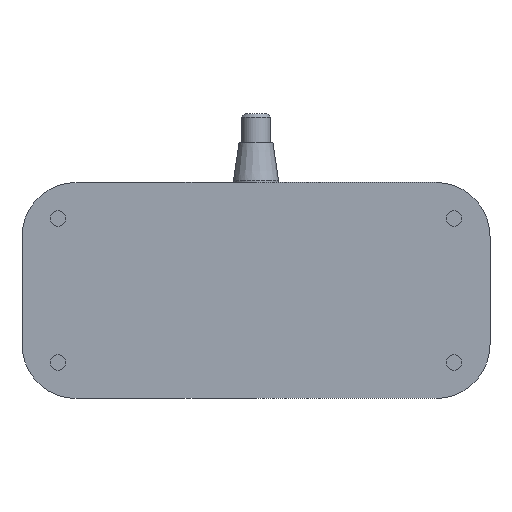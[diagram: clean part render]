
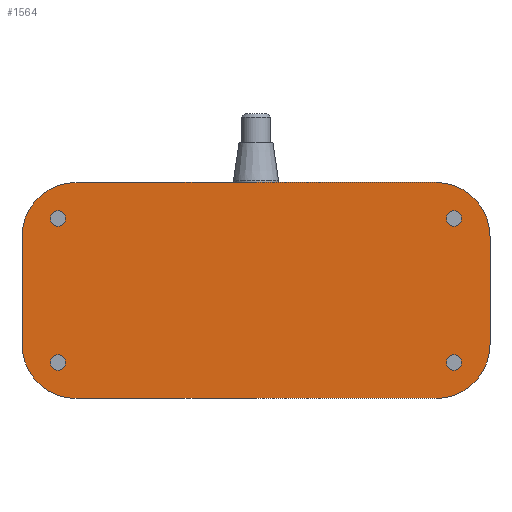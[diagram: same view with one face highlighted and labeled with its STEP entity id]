
A CAD part, front view. The second image highlights one B-rep face of the part: STEP entity #1564.
In plain terms, the highlighted planar face has unit normal (0, -1, 0).
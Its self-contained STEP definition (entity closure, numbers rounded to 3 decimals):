
#9 = EDGE_CURVE ( 'NONE', #1752, #61, #1513, .T. ) ;
#10 = DIRECTION ( 'NONE',  ( -1., 0., 0. ) ) ;
#12 = DIRECTION ( 'NONE',  ( 0., -1., 0. ) ) ;
#15 = CARTESIAN_POINT ( 'NONE',  ( -100., 0., 30. ) ) ;
#40 = DIRECTION ( 'NONE',  ( -1., 0., 0. ) ) ;
#42 = DIRECTION ( 'NONE',  ( 0., -1., 0. ) ) ;
#44 = CARTESIAN_POINT ( 'NONE',  ( 100., 0., 30. ) ) ;
#50 = CIRCLE ( 'NONE', #729, 4.25 ) ;
#61 = VERTEX_POINT ( 'NONE', #1811 ) ;
#88 = DIRECTION ( 'NONE',  ( 0., 0., -1. ) ) ;
#94 = CARTESIAN_POINT ( 'NONE',  ( -130., 0., 60. ) ) ;
#129 = EDGE_CURVE ( 'NONE', #2046, #1224, #810, .T. ) ;
#135 = ORIENTED_EDGE ( 'NONE', *, *, #811, .F. ) ;
#154 = AXIS2_PLACEMENT_3D ( 'NONE', #916, #816, #815 ) ;
#163 = VECTOR ( 'NONE', #1084, 1000. ) ;
#179 = ORIENTED_EDGE ( 'NONE', *, *, #673, .T. ) ;
#231 = EDGE_CURVE ( 'NONE', #326, #1998, #1490, .T. ) ;
#250 = EDGE_CURVE ( 'NONE', #1917, #1935, #772, .T. ) ;
#266 = EDGE_CURVE ( 'NONE', #692, #1594, #711, .T. ) ;
#298 = PLANE ( 'NONE',  #1883 ) ;
#302 = EDGE_CURVE ( 'NONE', #1224, #2046, #2042, .T. ) ;
#306 = EDGE_CURVE ( 'NONE', #1996, #723, #1994, .T. ) ;
#321 = DIRECTION ( 'NONE',  ( 0., -1., 0. ) ) ;
#326 = VERTEX_POINT ( 'NONE', #921 ) ;
#347 = CARTESIAN_POINT ( 'NONE',  ( -110., 0., 40. ) ) ;
#365 = DIRECTION ( 'NONE',  ( 0., -1., 0. ) ) ;
#370 = EDGE_CURVE ( 'NONE', #61, #854, #1913, .T. ) ;
#377 = CIRCLE ( 'NONE', #510, 4.25 ) ;
#449 = AXIS2_PLACEMENT_3D ( 'NONE', #1525, #365, #1666 ) ;
#479 = VECTOR ( 'NONE', #1404, 1000. ) ;
#480 = ORIENTED_EDGE ( 'NONE', *, *, #231, .F. ) ;
#496 = AXIS2_PLACEMENT_3D ( 'NONE', #44, #42, #40 ) ;
#510 = AXIS2_PLACEMENT_3D ( 'NONE', #347, #1659, #550 ) ;
#550 = DIRECTION ( 'NONE',  ( 1., 0., 0. ) ) ;
#565 = CIRCLE ( 'NONE', #449, 4.25 ) ;
#622 = AXIS2_PLACEMENT_3D ( 'NONE', #15, #12, #10 ) ;
#624 = FACE_BOUND ( 'NONE', #2306, .T. ) ;
#631 = EDGE_CURVE ( 'NONE', #746, #1752, #1644, .T. ) ;
#636 = EDGE_LOOP ( 'NONE', ( #726, #135 ) ) ;
#650 = EDGE_CURVE ( 'NONE', #692, #1998, #769, .T. ) ;
#655 = EDGE_CURVE ( 'NONE', #326, #746, #1208, .T. ) ;
#667 = ORIENTED_EDGE ( 'NONE', *, *, #9, .T. ) ;
#671 = EDGE_CURVE ( 'NONE', #753, #775, #1144, .T. ) ;
#673 = EDGE_CURVE ( 'NONE', #854, #1594, #1992, .T. ) ;
#681 = CARTESIAN_POINT ( 'NONE',  ( 130., 0., -30. ) ) ;
#692 = VERTEX_POINT ( 'NONE', #2289 ) ;
#711 = LINE ( 'NONE', #888, #163 ) ;
#717 = ORIENTED_EDGE ( 'NONE', *, *, #250, .F. ) ;
#719 = EDGE_LOOP ( 'NONE', ( #1477, #1050 ) ) ;
#720 = DIRECTION ( 'NONE',  ( 0., -1., 0. ) ) ;
#723 = VERTEX_POINT ( 'NONE', #896 ) ;
#725 = CARTESIAN_POINT ( 'NONE',  ( -110., 0., -40. ) ) ;
#726 = ORIENTED_EDGE ( 'NONE', *, *, #306, .F. ) ;
#729 = AXIS2_PLACEMENT_3D ( 'NONE', #1982, #982, #2123 ) ;
#742 = AXIS2_PLACEMENT_3D ( 'NONE', #2014, #2018, #1415 ) ;
#746 = VERTEX_POINT ( 'NONE', #1124 ) ;
#748 = CARTESIAN_POINT ( 'NONE',  ( -114.25, 0., -40. ) ) ;
#753 = VERTEX_POINT ( 'NONE', #2214 ) ;
#769 = CIRCLE ( 'NONE', #496, 30. ) ;
#772 = CIRCLE ( 'NONE', #2122, 4.25 ) ;
#775 = VERTEX_POINT ( 'NONE', #1140 ) ;
#790 = EDGE_LOOP ( 'NONE', ( #1011, #1494 ) ) ;
#810 = CIRCLE ( 'NONE', #2067, 4.25 ) ;
#811 = EDGE_CURVE ( 'NONE', #723, #1996, #565, .T. ) ;
#815 = DIRECTION ( 'NONE',  ( 1., 0., 0. ) ) ;
#816 = DIRECTION ( 'NONE',  ( 0., -1., 0. ) ) ;
#828 = DIRECTION ( 'NONE',  ( 1., 0., 0. ) ) ;
#854 = VERTEX_POINT ( 'NONE', #1536 ) ;
#888 = CARTESIAN_POINT ( 'NONE',  ( 130., 0., 60. ) ) ;
#891 = AXIS2_PLACEMENT_3D ( 'NONE', #2263, #321, #1503 ) ;
#896 = CARTESIAN_POINT ( 'NONE',  ( 105.75, 0., -40. ) ) ;
#904 = DIRECTION ( 'NONE',  ( 0., -1., 0. ) ) ;
#916 = CARTESIAN_POINT ( 'NONE',  ( 110., 0., -40. ) ) ;
#921 = CARTESIAN_POINT ( 'NONE',  ( -100., 0., 60. ) ) ;
#961 = CARTESIAN_POINT ( 'NONE',  ( 100., 0., 60. ) ) ;
#981 = DIRECTION ( 'NONE',  ( 1., 0., 0. ) ) ;
#982 = DIRECTION ( 'NONE',  ( 0., -1., 0. ) ) ;
#988 = CARTESIAN_POINT ( 'NONE',  ( 110., 0., 40. ) ) ;
#989 = CARTESIAN_POINT ( 'NONE',  ( -130., 0., 60. ) ) ;
#1011 = ORIENTED_EDGE ( 'NONE', *, *, #671, .F. ) ;
#1050 = ORIENTED_EDGE ( 'NONE', *, *, #129, .F. ) ;
#1061 = DIRECTION ( 'NONE',  ( 1., 0., 0. ) ) ;
#1084 = DIRECTION ( 'NONE',  ( 0., 0., -1. ) ) ;
#1124 = CARTESIAN_POINT ( 'NONE',  ( -130., 0., 30. ) ) ;
#1140 = CARTESIAN_POINT ( 'NONE',  ( -114.25, 0., 40. ) ) ;
#1144 = CIRCLE ( 'NONE', #742, 4.25 ) ;
#1186 = EDGE_CURVE ( 'NONE', #1935, #1917, #50, .T. ) ;
#1208 = CIRCLE ( 'NONE', #622, 30. ) ;
#1224 = VERTEX_POINT ( 'NONE', #2133 ) ;
#1250 = ORIENTED_EDGE ( 'NONE', *, *, #370, .T. ) ;
#1318 = VECTOR ( 'NONE', #828, 1000. ) ;
#1326 = EDGE_LOOP ( 'NONE', ( #1250, #179, #1572, #1437, #480, #1569, #2128, #667 ) ) ;
#1404 = DIRECTION ( 'NONE',  ( 1., 0., 0. ) ) ;
#1408 = CARTESIAN_POINT ( 'NONE',  ( -130., 0., -60. ) ) ;
#1415 = DIRECTION ( 'NONE',  ( 1., 0., 0. ) ) ;
#1437 = ORIENTED_EDGE ( 'NONE', *, *, #650, .T. ) ;
#1453 = ORIENTED_EDGE ( 'NONE', *, *, #1186, .F. ) ;
#1477 = ORIENTED_EDGE ( 'NONE', *, *, #302, .F. ) ;
#1490 = LINE ( 'NONE', #989, #1318 ) ;
#1494 = ORIENTED_EDGE ( 'NONE', *, *, #1753, .F. ) ;
#1503 = DIRECTION ( 'NONE',  ( -1., 0., 0. ) ) ;
#1512 = CARTESIAN_POINT ( 'NONE',  ( -100., 0., -30. ) ) ;
#1513 = CIRCLE ( 'NONE', #1583, 30. ) ;
#1514 = DIRECTION ( 'NONE',  ( 0., -1., 0. ) ) ;
#1515 = DIRECTION ( 'NONE',  ( -1., 0., 0. ) ) ;
#1521 = CARTESIAN_POINT ( 'NONE',  ( 110., 0., 40. ) ) ;
#1525 = CARTESIAN_POINT ( 'NONE',  ( 110., 0., -40. ) ) ;
#1536 = CARTESIAN_POINT ( 'NONE',  ( 100., 0., -60. ) ) ;
#1550 = CARTESIAN_POINT ( 'NONE',  ( 105.75, 0., 40. ) ) ;
#1564 = ADVANCED_FACE ( 'NONE', ( #624, #1582, #1618, #1963, #2015 ), #298, .F. ) ;
#1569 = ORIENTED_EDGE ( 'NONE', *, *, #655, .T. ) ;
#1572 = ORIENTED_EDGE ( 'NONE', *, *, #266, .F. ) ;
#1576 = DIRECTION ( 'NONE',  ( 1., 0., 0. ) ) ;
#1582 = FACE_BOUND ( 'NONE', #636, .T. ) ;
#1583 = AXIS2_PLACEMENT_3D ( 'NONE', #1512, #1514, #1515 ) ;
#1588 = DIRECTION ( 'NONE',  ( 0., -1., 0. ) ) ;
#1594 = VERTEX_POINT ( 'NONE', #681 ) ;
#1618 = FACE_BOUND ( 'NONE', #719, .T. ) ;
#1626 = CARTESIAN_POINT ( 'NONE',  ( -130., 0., 60. ) ) ;
#1644 = LINE ( 'NONE', #94, #1695 ) ;
#1659 = DIRECTION ( 'NONE',  ( 0., -1., 0. ) ) ;
#1666 = DIRECTION ( 'NONE',  ( 1., 0., 0. ) ) ;
#1695 = VECTOR ( 'NONE', #88, 1000. ) ;
#1752 = VERTEX_POINT ( 'NONE', #2092 ) ;
#1753 = EDGE_CURVE ( 'NONE', #775, #753, #377, .T. ) ;
#1784 = DIRECTION ( 'NONE',  ( -1., 0., 0. ) ) ;
#1811 = CARTESIAN_POINT ( 'NONE',  ( -100., 0., -60. ) ) ;
#1831 = CARTESIAN_POINT ( 'NONE',  ( -105.75, 0., -40. ) ) ;
#1883 = AXIS2_PLACEMENT_3D ( 'NONE', #1626, #2196, #1784 ) ;
#1913 = LINE ( 'NONE', #1408, #479 ) ;
#1917 = VERTEX_POINT ( 'NONE', #1831 ) ;
#1935 = VERTEX_POINT ( 'NONE', #748 ) ;
#1963 = FACE_BOUND ( 'NONE', #790, .T. ) ;
#1966 = CARTESIAN_POINT ( 'NONE',  ( 114.25, 0., -40. ) ) ;
#1982 = CARTESIAN_POINT ( 'NONE',  ( -110., 0., -40. ) ) ;
#1992 = CIRCLE ( 'NONE', #891, 30. ) ;
#1994 = CIRCLE ( 'NONE', #154, 4.25 ) ;
#1996 = VERTEX_POINT ( 'NONE', #1966 ) ;
#1998 = VERTEX_POINT ( 'NONE', #961 ) ;
#2014 = CARTESIAN_POINT ( 'NONE',  ( -110., 0., 40. ) ) ;
#2015 = FACE_OUTER_BOUND ( 'NONE', #1326, .T. ) ;
#2018 = DIRECTION ( 'NONE',  ( 0., -1., 0. ) ) ;
#2042 = CIRCLE ( 'NONE', #2213, 4.25 ) ;
#2046 = VERTEX_POINT ( 'NONE', #1550 ) ;
#2067 = AXIS2_PLACEMENT_3D ( 'NONE', #1521, #1588, #1576 ) ;
#2092 = CARTESIAN_POINT ( 'NONE',  ( -130., 0., -30. ) ) ;
#2122 = AXIS2_PLACEMENT_3D ( 'NONE', #725, #720, #1061 ) ;
#2123 = DIRECTION ( 'NONE',  ( 1., 0., 0. ) ) ;
#2128 = ORIENTED_EDGE ( 'NONE', *, *, #631, .T. ) ;
#2133 = CARTESIAN_POINT ( 'NONE',  ( 114.25, 0., 40. ) ) ;
#2196 = DIRECTION ( 'NONE',  ( 0., 1., 0. ) ) ;
#2213 = AXIS2_PLACEMENT_3D ( 'NONE', #988, #904, #981 ) ;
#2214 = CARTESIAN_POINT ( 'NONE',  ( -105.75, 0., 40. ) ) ;
#2263 = CARTESIAN_POINT ( 'NONE',  ( 100., 0., -30. ) ) ;
#2289 = CARTESIAN_POINT ( 'NONE',  ( 130., 0., 30. ) ) ;
#2306 = EDGE_LOOP ( 'NONE', ( #717, #1453 ) ) ;
